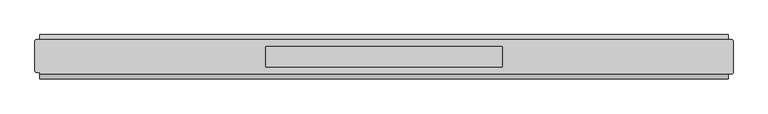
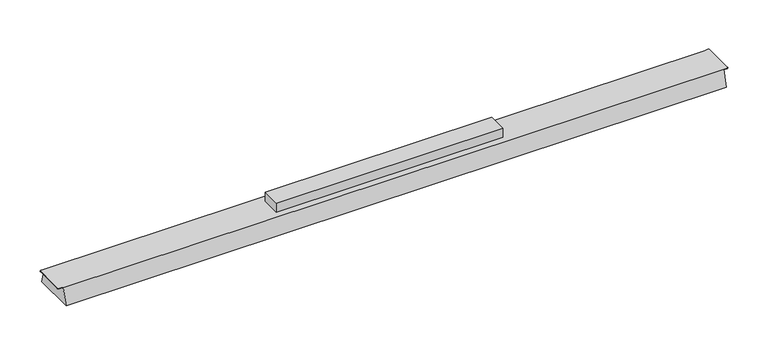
"""IFC4 building model written with IfcOpenShell, lengths in millimetres: light fixture geometry, GENILED_Светильник светодиодный_Retail Basic : Retail Basic 1026x66x25 40Вт Опал."""

import ifcopenshell
import ifcopenshell.guid

model = None  # the IFC model being written
_history = None  # IfcOwnerHistory: only IFC2X3 demands one
_inside = {}  # id of a spatial element -> (the spatial element, [elements in it])
_under = {}  # id of a project, library or spatial element -> (it, [spatial elements below it])
_declared = {}  # id of a project -> (the project, [libraries it declares])
_typed = {}  # id of a type object -> (the type object, [elements of that type])
_made_of = {}  # id of a material, layer set ... -> (it, [elements and type objects made of it])


def new_model(schema):
    """Start an empty IFC model of exactly this schema.

    Asked for "IFC4X3", IfcOpenShell would pick the latest addendum, in which some entities
    have other attributes; the version numbers below select the first issue.
    IFC2X3 requires an IfcOwnerHistory on every rooted entity: one is made here for all.
    """
    global model, _history
    if schema == "IFC4X3":
        model = ifcopenshell.file(schema_version=(4, 3, 0, 0))
    else:
        model = ifcopenshell.file(schema=schema)
    _inside.clear()
    _under.clear()
    _declared.clear()
    _typed.clear()
    _made_of.clear()
    _history = None
    if model.schema == "IFC2X3":
        org = make("IfcOrganization", Name="unknown")
        user = make(
            "IfcPersonAndOrganization",
            ThePerson=make("IfcPerson", FamilyName="unknown"),
            TheOrganization=org,
        )
        app = make(
            "IfcApplication",
            ApplicationDeveloper=org,
            Version="unknown",
            ApplicationFullName="unknown",
            ApplicationIdentifier="unknown",
        )
        _history = make(
            "IfcOwnerHistory",
            OwningUser=user,
            OwningApplication=app,
            ChangeAction="ADDED",
            CreationDate=0,
        )
    return model


def make(cls, **values):
    """One entity of the class cls with the attributes given. An attribute that is None is left unset."""
    return model.create_entity(
        cls, **{name: value for name, value in values.items() if value is not None}
    )


def rooted(cls, **values):
    """An entity with a GlobalId (a new one), such as an element, a storey or a relation."""
    return make(cls, GlobalId=ifcopenshell.guid.new(), OwnerHistory=_history, **values)


def si_unit(unit_type, name, prefix=None):
    """IfcSIUnit, for example si_unit("LENGTHUNIT", "METRE", prefix="MILLI")."""
    return make("IfcSIUnit", UnitType=unit_type, Prefix=prefix, Name=name)


def assignment(units):
    """IfcUnitAssignment: the units of a project."""
    return None if units is None else make("IfcUnitAssignment", Units=units)


def point(xyz):
    """IfcCartesianPoint."""
    return None if xyz is None else make("IfcCartesianPoint", Coordinates=xyz)


def direction(xyz):
    """IfcDirection."""
    return None if xyz is None else make("IfcDirection", DirectionRatios=xyz)


def frame(location, z_axis=None, x_axis=None):
    """IfcAxis2Placement3D, a coordinate frame: its origin and axes. An axis left out is left unset."""
    return make(
        "IfcAxis2Placement3D",
        Location=point(location),
        Axis=direction(z_axis),
        RefDirection=direction(x_axis),
    )


def origin():
    """The frame at (0, 0, 0) with its axes left unset."""
    return frame((0.0, 0.0, 0.0))


def place(relative_to, where):
    """IfcLocalPlacement: puts the frame where relative to a parent placement (None: the world)."""
    return make(
        "IfcLocalPlacement", PlacementRelTo=relative_to, RelativePlacement=where
    )


def context(
    kind, dimensions, precision=None, world=None, true_north=None, identifier=None
):
    """IfcGeometricRepresentationContext, for example the 3D "Model" context."""
    return make(
        "IfcGeometricRepresentationContext",
        ContextIdentifier=identifier,
        ContextType=kind,
        CoordinateSpaceDimension=dimensions,
        Precision=precision,
        WorldCoordinateSystem=world,
        TrueNorth=true_north,
    )


def project(units=None, contexts=None):
    """IfcProject with its units and contexts."""
    return rooted(
        "IfcProject",
        Name="project",
        RepresentationContexts=contexts,
        UnitsInContext=assignment(units),
    )


def spatial(cls, under=None, at=None, **own):
    """A site, building, storey or space (cls), placed at a placement, below another one or the project."""
    s = rooted(cls, ObjectPlacement=at, **own)
    if under is not None:
        _under.setdefault(under.id(), (under, []))[1].append(s)
    return s


def circle_curve(where, radius):
    """IfcCircle in the frame where."""
    return make("IfcCircle", Position=where, Radius=radius)


def shape(context_of_items, identifier, shape_type, items):
    """IfcShapeRepresentation: the items that make up one representation, for example the "Body"."""
    return make(
        "IfcShapeRepresentation",
        ContextOfItems=context_of_items,
        RepresentationIdentifier=identifier,
        RepresentationType=shape_type,
        Items=items,
    )


def source(mapping_origin, context_of_items, identifier, shape_type, items):
    """IfcRepresentationMap: a shape defined once, which mapped items show again and again."""
    return make(
        "IfcRepresentationMap",
        MappingOrigin=mapping_origin,
        MappedRepresentation=shape(context_of_items, identifier, shape_type, items),
    )


def transform(
    local_origin,
    x_axis=None,
    y_axis=None,
    z_axis=None,
    scale=None,
    scale2=None,
    scale3=None,
    uniform=True,
):
    """IfcCartesianTransformationOperator3D, or its non-uniform kind. x_axis, y_axis, z_axis: its Axis1, 2, 3."""
    if uniform:
        return make(
            "IfcCartesianTransformationOperator3D",
            Axis1=direction(x_axis),
            Axis2=direction(y_axis),
            LocalOrigin=point(local_origin),
            Scale=scale,
            Axis3=direction(z_axis),
        )
    return make(
        "IfcCartesianTransformationOperator3DnonUniform",
        Axis1=direction(x_axis),
        Axis2=direction(y_axis),
        LocalOrigin=point(local_origin),
        Scale=scale,
        Axis3=direction(z_axis),
        Scale2=scale2,
        Scale3=scale3,
    )


def mapped(mapping_source, mapping_target):
    """IfcMappedItem: shows the shape of a source again, moved by a transform."""
    return make(
        "IfcMappedItem", MappingSource=mapping_source, MappingTarget=mapping_target
    )


def made_of(thing, what):
    """Note that an element or type object is made of a material, layer set ...; save() writes the relation."""
    if what is not None:
        _made_of.setdefault(what.id(), (what, []))[1].append(thing)
    return thing


def element(
    cls,
    number,
    at=None,
    inside=None,
    cuts=None,
    type_object=None,
    material=None,
    context=None,
    identifier="Body",
    shape_type=None,
    held_by="IfcProductDefinitionShape",
    body=None,
    shapes=None,
    **own,
):
    """One element of the class cls, such as IfcWall. Its Tag is "e" and its number.

    at: its placement. inside: the storey or other place that contains it. cuts: it is an
    opening in that element (IfcRelVoidsElement). A single representation is given by context,
    identifier, shape_type and body (its items); several are given by shapes. held_by: the class
    of the entity that holds the representations. save() writes the other relations.
    """
    e = rooted(cls, Tag="e%d" % number, ObjectPlacement=at, **own)
    if body is not None:
        shapes = [shape(context, identifier, shape_type, body)]
    if shapes is not None:
        e.Representation = make(held_by, Representations=shapes)
    if inside is not None:
        _inside.setdefault(inside.id(), (inside, []))[1].append(e)
    if cuts is not None:
        rooted(
            "IfcRelVoidsElement", RelatingBuildingElement=cuts, RelatedOpeningElement=e
        )
    if type_object is not None:
        _typed.setdefault(type_object.id(), (type_object, []))[1].append(e)
    return made_of(e, material)


def aggregate(whole, parts):
    """IfcRelAggregates: a whole, such as a stair, and the parts it consists of."""
    return rooted("IfcRelAggregates", RelatingObject=whole, RelatedObjects=parts)


def save(model, path):
    """Write the relations noted so far, then the file.

    IfcRelAggregates (storeys below a building ...), IfcRelContainedInSpatialStructure (elements
    in a storey), IfcRelDefinesByType, IfcRelAssociatesMaterial and IfcRelDeclares: one each for
    every whole, place, type object, material and project.
    """
    for whole, parts in _under.values():
        aggregate(whole, parts)
    for where, things in _inside.values():
        rooted(
            "IfcRelContainedInSpatialStructure",
            RelatedElements=things,
            RelatingStructure=where,
        )
    for kind, things in _typed.values():
        rooted("IfcRelDefinesByType", RelatedObjects=things, RelatingType=kind)
    for what, things in _made_of.values():
        rooted("IfcRelAssociatesMaterial", RelatedObjects=things, RelatingMaterial=what)
    for by, libraries in _declared.values():
        rooted("IfcRelDeclares", RelatingContext=by, RelatedDefinitions=libraries)
    model.write(path)


def plane_surface(at):
    """IfcPlane: the flat surface through the origin of the frame at, square to its z axis."""
    return make("IfcPlane", Position=at)


def cylinder_surface(at, radius):
    """IfcCylindricalSurface: all points at the distance radius from the z axis of the frame at."""
    return make("IfcCylindricalSurface", Position=at, Radius=radius)


def advanced_brep(points, edges, surfaces, faces):
    """IfcAdvancedBrep: a solid bounded by faces that lie on surfaces and meet in shared edges.

    An edge is (start, end): straight between two places in points (the first is 0);
    or (start, end, curve); or (start, end, curve, False) where it runs against its curve.
    A face is (place in surfaces, loops), or (place, loops, False) where it looks against
    its surface's normal. A loop lists edges by number (the first is 1), with a minus sign
    where the edge is run from its end to its start. The first loop is the outer one.
    """
    corners = [point(p) for p in points]
    vertices = [make("IfcVertexPoint", VertexGeometry=c) for c in corners]
    made = []
    for start, end, *more in edges:
        made.append(
            make(
                "IfcEdgeCurve",
                EdgeStart=vertices[start],
                EdgeEnd=vertices[end],
                EdgeGeometry=more[0] if more else make("IfcPolyline", Points=[corners[start], corners[end]]),
                SameSense=more[1] if len(more) > 1 else True,
            )
        )
    hull = []
    for where, loops, *sense in faces:
        bounds = []
        for j, loop in enumerate(loops):
            ring = [make("IfcOrientedEdge", EdgeElement=made[abs(k) - 1], Orientation=k > 0) for k in loop]
            bounds.append(
                make(
                    "IfcFaceOuterBound" if j == 0 else "IfcFaceBound",
                    Bound=make("IfcEdgeLoop", EdgeList=ring),
                    Orientation=True,
                )
            )
        hull.append(make("IfcAdvancedFace", Bounds=bounds, FaceSurface=surfaces[where], SameSense=sense[0] if sense else True))
    return make("IfcAdvancedBrep", Outer=make("IfcClosedShell", CfsFaces=hull))


def light_fixture_6dc9417a(model_context):
    return source(origin(), model_context, "Body", "AdvancedBrep", [
        advanced_brep(
        [(513.0, 25.5, 25.0), (-513.0, 25.5, 25.0), (-518.0, 25.5, 25.0), (-520.0, 23.5, 25.0), (-520.0, -21.0, 25.0), (-518.0, -23.0, 25.0), (-513.0, -23.0, 25.0), (-513.0, -25.5, 25.0), (513.0, -25.5, 25.0), (518.0, -25.5, 25.0), (520.0, -23.5, 25.0), (520.0, 23.5, 25.0), (518.0, 25.5, 25.0), (-176.0, 15.0, 25.0), (176.0, 15.0, 25.0), (176.0, -15.0, 25.0), (-176.0, -15.0, 25.0), (513.0, 33.0, 0.0), (513.0, -33.0, 0.0), (-513.0, -33.0, 0.0), (-513.0, 33.0, 0.0), (-513.0, -23.0, 24.0), (-513.0, 25.5, 24.0), (513.0, 25.5, 24.0), (513.0, -25.5, 24.0), (176.0, 15.0, 40.0), (-176.0, 15.0, 40.0), (-176.0, -15.0, 40.0), (176.0, -15.0, 40.0), (518.0, 25.5, 24.0), (520.0, 23.5, 24.0), (520.0, -23.5, 24.0), (518.0, -25.5, 24.0), (-518.0, -23.0, 24.0), (-520.0, -21.0, 24.0), (-520.0, 23.5, 24.0), (-518.0, 25.5, 24.0)],
        [
            (0, 1),
            (1, 2),
            (2, 3, circle_curve(frame((-518.0, 23.5, 25.0), z_axis=(0.0, 0.0, 1.0), x_axis=(1.0, 0.0, 0.0)), 2.0)),
            (3, 4),
            (4, 5, circle_curve(frame((-518.0, -21.0, 25.0), z_axis=(0.0, 0.0, 1.0), x_axis=(1.0, 0.0, 0.0)), 2.0)),
            (5, 6),
            (6, 7),
            (7, 8),
            (8, 9),
            (9, 10, circle_curve(frame((518.0, -23.5, 25.0), z_axis=(0.0, 0.0, 1.0), x_axis=(1.0, 0.0, 0.0)), 2.0)),
            (10, 11),
            (11, 12, circle_curve(frame((518.0, 23.5, 25.0), z_axis=(0.0, 0.0, 1.0), x_axis=(1.0, 0.0, 0.0)), 2.0)),
            (12, 0),
            (13, 14),
            (14, 15),
            (15, 16),
            (16, 13),
            (17, 18),
            (18, 19),
            (19, 20),
            (20, 17),
            (0, 17),
            (20, 1),
            (19, 7),
            (6, 21),
            (21, 22),
            (22, 1),
            (18, 8),
            (0, 23),
            (23, 24),
            (24, 8),
            (25, 26),
            (26, 27),
            (27, 28),
            (28, 25),
            (25, 14),
            (13, 26),
            (16, 27),
            (15, 28),
            (29, 30, circle_curve(frame((518.0, 23.5, 24.0), z_axis=(0.0, 0.0, -1.0), x_axis=(1.0, 0.0, 0.0)), 2.0)),
            (30, 31),
            (31, 32, circle_curve(frame((518.0, -23.5, 24.0), z_axis=(0.0, 0.0, -1.0), x_axis=(1.0, 0.0, 0.0)), 2.0)),
            (32, 24),
            (23, 29),
            (12, 29),
            (32, 9),
            (31, 10),
            (30, 11),
            (21, 33),
            (33, 34, circle_curve(frame((-518.0, -21.0, 24.0), z_axis=(0.0, 0.0, -1.0), x_axis=(1.0, 0.0, 0.0)), 2.0)),
            (34, 35),
            (35, 36, circle_curve(frame((-518.0, 23.5, 24.0), z_axis=(0.0, 0.0, -1.0), x_axis=(1.0, 0.0, 0.0)), 2.0)),
            (36, 22),
            (36, 2),
            (35, 3),
            (34, 4),
            (33, 5),
        ],
        [
            plane_surface(frame((0.0, 0.0, 25.0), z_axis=(0.0, 0.0, 1.0), x_axis=(-1.0, 0.0, 0.0))),
            plane_surface(frame((0.0, 0.0, 0.0), z_axis=(0.0, 0.0, -1.0), x_axis=(-1.0, 0.0, 0.0))),
            plane_surface(frame((0.0, 33.0, 0.0), z_axis=(0.0, 0.9578262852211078, 0.28734788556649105), x_axis=(-1.0, 0.0, 0.0))),
            plane_surface(frame((-513.0, 0.0, 0.0), z_axis=(-1.0, 0.0, 0.0), x_axis=(0.0, -1.0, 0.0))),
            plane_surface(frame((0.0, -33.0, 0.0), z_axis=(0.0, -0.957826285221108, 0.2873478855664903), x_axis=(1.0, 0.0, 0.0))),
            plane_surface(frame((513.0, 0.0, 0.0), z_axis=(1.0, 0.0, 0.0), x_axis=(0.0, 1.0, 0.0))),
            plane_surface(frame((-176.0, 15.0, 40.0), z_axis=(0.0, 0.0, 1.0), x_axis=(-1.0, 0.0, 0.0))),
            plane_surface(frame((176.0, 15.0, 40.0), z_axis=(0.0, 1.0, 0.0), x_axis=(0.0, 0.0, -1.0))),
            plane_surface(frame((-176.0, 15.0, 40.0), z_axis=(-1.0, 0.0, 0.0), x_axis=(0.0, 0.0, -1.0))),
            plane_surface(frame((-176.0, -15.0, 40.0), z_axis=(0.0, -1.0, 0.0), x_axis=(0.0, 0.0, -1.0))),
            plane_surface(frame((176.0, -15.0, 40.0), z_axis=(1.0, 0.0, 0.0), x_axis=(0.0, 0.0, -1.0))),
            plane_surface(frame((513.0, 25.5, 24.0), z_axis=(0.0, 0.0, -1.0), x_axis=(1.0, 0.0, 0.0))),
            plane_surface(frame((518.0, 25.5, 25.0), z_axis=(0.0, 1.0, 0.0), x_axis=(0.0, 0.0, -1.0))),
            plane_surface(frame((513.0, -25.5, 25.0), z_axis=(0.0, -1.0, 0.0), x_axis=(0.0, 0.0, -1.0))),
            cylinder_surface(frame((518.0, -23.5, 24.0), z_axis=(0.0, 0.0, 1.0), x_axis=(1.0, 0.0, 0.0)), 2.0),
            plane_surface(frame((520.0, -23.5, 25.0), z_axis=(1.0, 0.0, 0.0), x_axis=(0.0, 0.0, -1.0))),
            cylinder_surface(frame((518.0, 23.5, 24.0), z_axis=(0.0, 0.0, 1.0), x_axis=(1.0, 0.0, 0.0)), 2.0),
            plane_surface(frame((-518.0, 25.5, 24.0), z_axis=(0.0, 0.0, -1.0), x_axis=(1.0, 0.0, 0.0))),
            plane_surface(frame((-513.0, 25.5, 25.0), z_axis=(0.0, 1.0, 0.0), x_axis=(0.0, 0.0, -1.0))),
            cylinder_surface(frame((-518.0, 23.5, 24.0), z_axis=(0.0, 0.0, 1.0), x_axis=(1.0, 0.0, 0.0)), 2.0),
            plane_surface(frame((-520.0, 23.5, 25.0), z_axis=(-1.0, 0.0, 0.0), x_axis=(0.0, 0.0, -1.0))),
            cylinder_surface(frame((-518.0, -21.0, 24.0), z_axis=(0.0, 0.0, 1.0), x_axis=(1.0, 0.0, 0.0)), 2.0),
            plane_surface(frame((-518.0, -23.0, 25.0), z_axis=(0.0, -1.0, 0.0), x_axis=(0.0, 0.0, -1.0))),
        ],
        [
            (0, [[1, 2, 3, 4, 5, 6, 7, 8, 9, 10, 11, 12, 13], [14, 15, 16, 17]]),
            (1, [[18, 19, 20, 21]]),
            (2, [[-1, 22, -21, 23]]),
            (3, [[-20, 24, -7, 25, 26, 27, -23]]),
            (4, [[-8, -24, -19, 28]]),
            (5, [[-18, -22, 29, 30, 31, -28]]),
            (6, [[32, 33, 34, 35]]),
            (7, [[-32, 36, -14, 37]]),
            (8, [[-33, -37, -17, 38]]),
            (9, [[-34, -38, -16, 39]]),
            (10, [[-35, -39, -15, -36]]),
            (11, [[40, 41, 42, 43, -30, 44]]),
            (12, [[-13, 45, -44, -29]]),
            (13, [[-9, -31, -43, 46]]),
            (14, [[-10, -46, -42, 47]]),
            (15, [[-11, -47, -41, 48]]),
            (16, [[-12, -48, -40, -45]]),
            (17, [[49, 50, 51, 52, 53, -26]]),
            (18, [[-2, -27, -53, 54]]),
            (19, [[-3, -54, -52, 55]]),
            (20, [[-4, -55, -51, 56]]),
            (21, [[-5, -56, -50, 57]]),
            (22, [[-6, -57, -49, -25]]),
        ],
    ),
    ])


if __name__ == "__main__":
    model = new_model("IFC4")
    model_context = context("Model", 3, world=origin())
    ifc_project = project(units=[si_unit("LENGTHUNIT", "METRE", prefix="MILLI")], contexts=[model_context])
    site = spatial("IfcSite", under=ifc_project)
    building = spatial("IfcBuilding", under=site)
    placement = place(None, origin())
    light_fixture_shape = light_fixture_6dc9417a(model_context)
    element("IfcLightFixture", 1, ObjectType="GENILED_Светильник светодиодный_Retail Basic : Retail Basic 1026x66x25 40Вт Опал", at=placement, inside=building, context=model_context, shape_type="MappedRepresentation", body=[
        mapped(light_fixture_shape, transform((0.0, 0.0, 0.0), x_axis=(1.0, 0.0, 0.0), y_axis=(0.0, 1.0, 0.0), z_axis=(0.0, 0.0, 1.0))),
    ])
    save(model, "model.ifc")
